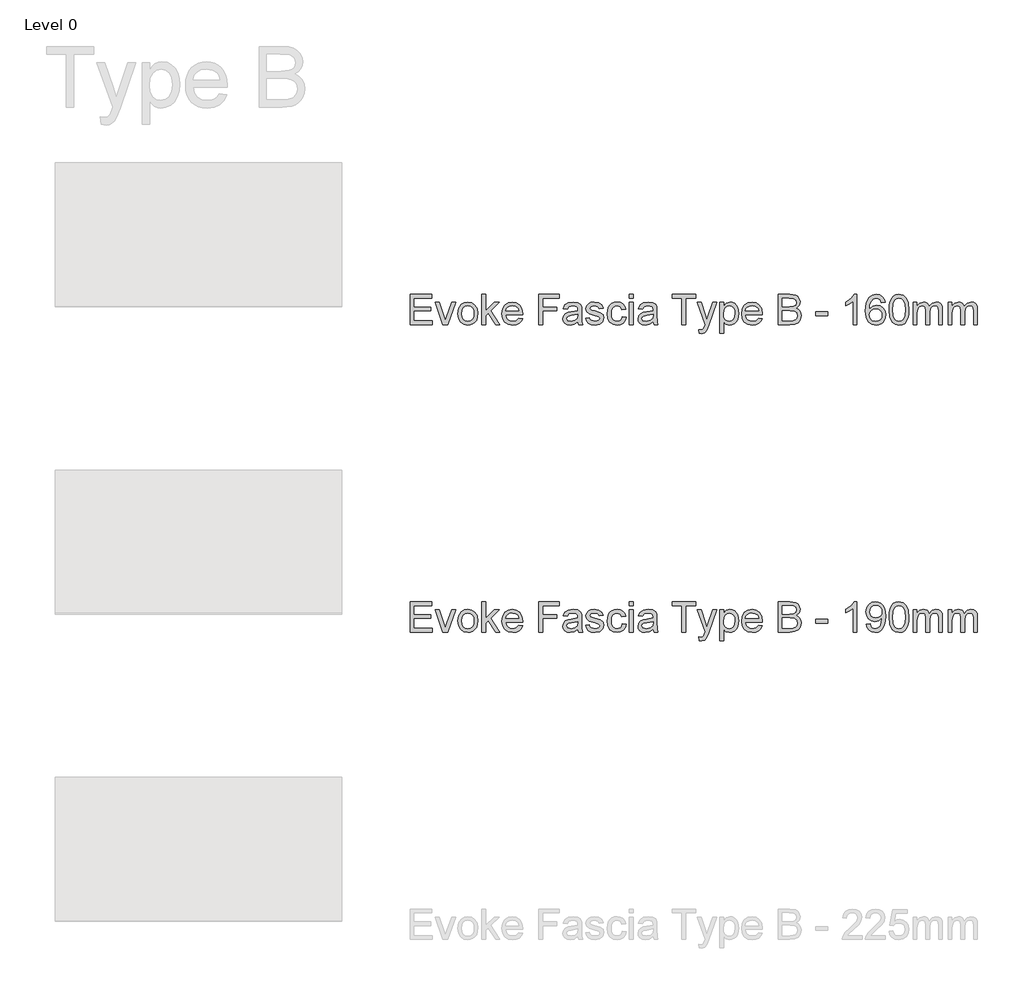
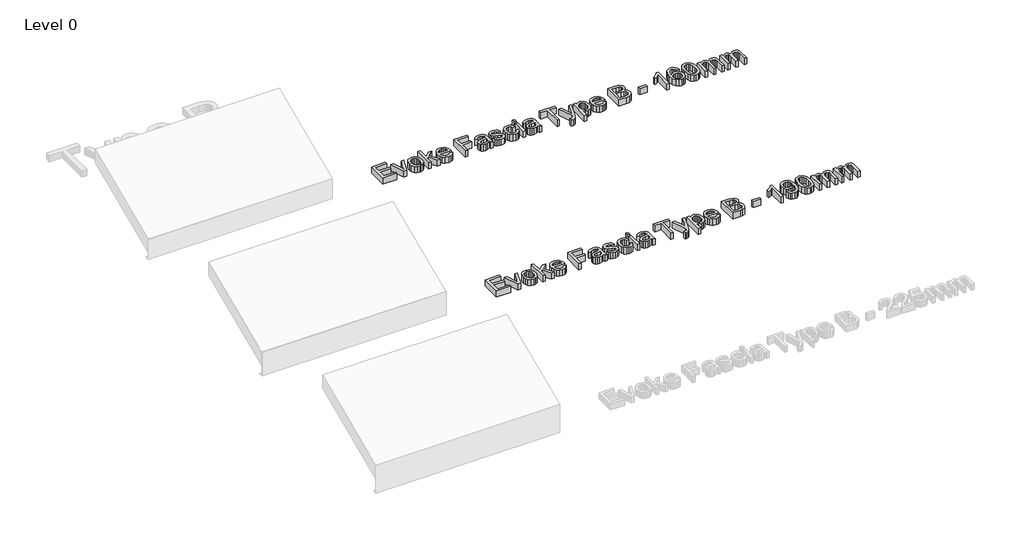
# One storey, part 10 of 13: 2 proxies.
"""IFC4 building model written with IfcOpenShell, lengths in millimetres."""

from ifc_helpers import new_model, si_unit, origin, origin_with_axes, place, context, project, spatial, polyline, outline, extrude, element, save

model = new_model("IFC4")

# Units and contexts
model_context = context("Model", 3, world=origin())
ifc_project = project(units=[si_unit("LENGTHUNIT", "METRE", prefix="MILLI")], contexts=[model_context])

# Site, building, storey
site = spatial("IfcSite", under=ifc_project)
building = spatial("IfcBuilding", under=site)
storey = spatial("IfcBuildingStorey", under=building, Name="Level 0", Elevation=0.0)

# Proxies
placement = place(None, origin())
element("IfcBuildingElementProxy", 1, Name="150mm Arial", ObjectType="150mm Arial", at=placement, inside=storey, context=model_context, shape_type="SweptSolid", body=[
    extrude(outline(polyline([(5568.7201043, 7360.6682311), (5568.7201043, 7508.3605388), (5674.8739504, 7508.3605388), (5674.8739504, 7489.8990003), (5587.1816427, 7489.8990003), (5587.1816427, 7446.0528465), (5670.2585658, 7446.0528465), (5670.2585658, 7427.591308), (5587.1816427, 7427.591308), (5587.1816427, 7379.1297695), (5677.1816427, 7379.1297695), (5677.1816427, 7360.6682311), (5568.7201043, 7360.6682311)])), origin_with_axes(), (0.0, 0.0, 1.0), 50.0),
    extrude(outline(polyline([(5729.176835, 7360.6682311), (5691.0277966, 7469.1297695), (5710.5710658, 7469.1297695), (5733.6840466, 7404.153808), (5740.6431812, 7382.3028465), (5747.458085, 7402.9278465), (5770.7152966, 7469.1297695), (5790.2585658, 7469.1297695), (5752.5782774, 7360.6682311), (5729.176835, 7360.6682311)])), origin_with_axes(), (0.0, 0.0, 1.0), 50.0),
    extrude(outline(polyline([(5801.7970274, 7414.8990003), (5805.7904168, 7441.0498416), (5817.770585, 7459.4302503), (5832.5722677, 7468.435659), (5850.2946235, 7471.4374618), (5869.6891548, 7467.7821133), (5885.1804408, 7456.8160676), (5895.3351884, 7439.4047094), (5898.7201043, 7416.4134234), (5897.22371, 7397.762582), (5892.7345274, 7383.5648657), (5885.3832653, 7372.9323537), (5875.3006331, 7364.9771253), (5863.3249721, 7360.0146854), (5850.2946235, 7358.3605388), (5830.6657173, 7362.0023657), (5815.19246, 7372.9278465), (5805.1458855, 7390.7042888), (5801.7970274, 7414.8990003)]), holes=[polyline([(5820.2585658, 7414.935058), (5822.3949841, 7398.2268248), (5828.8042389, 7386.3232791), (5838.4496716, 7379.1973777), (5850.2946235, 7376.8220772), (5862.0854889, 7379.2108993), (5871.7128927, 7386.3773657), (5878.1221475, 7398.4386638), (5880.2585658, 7415.5119811), (5878.1086259, 7431.7334354), (5871.6588062, 7443.4747215), (5862.0178807, 7450.6006229), (5850.2946235, 7452.9759234), (5838.4496716, 7450.6096373), (5828.8042389, 7443.5107791), (5822.3949841, 7431.6342767), (5820.2585658, 7414.935058)])]), origin_with_axes(), (0.0, 0.0, 1.0), 50.0),
    extrude(outline(polyline([(5919.489335, 7360.6682311), (5919.489335, 7508.3605388), (5937.9508735, 7508.3605388), (5937.9508735, 7428.997558), (5979.3451043, 7469.1297695), (6004.8739504, 7469.1297695), (5962.974912, 7428.4927503), (6007.1816427, 7360.6682311), (5985.6191427, 7360.6682311), (5949.7417389, 7415.6562118), (5937.9508735, 7404.2259234), (5937.9508735, 7360.6682311), (5919.489335, 7360.6682311)])), origin_with_axes(), (0.0, 0.0, 1.0), 50.0),
    extrude(outline(polyline([(6099.2729889, 7392.9759234), (6117.3739504, 7390.6682311), (6110.8520153, 7377.029409), (6100.4448639, 7366.8340965), (6086.3868711, 7360.4789282), (6068.912412, 7358.3605388), (6047.2507533, 7362.0158873), (6030.583085, 7372.981933), (6019.9550802, 7390.5465364), (6016.412412, 7413.997558), (6019.9911379, 7438.2373416), (6030.7273158, 7456.3653465), (6047.1696235, 7467.669433), (6067.8667389, 7471.4374618), (6087.919323, 7467.6784474), (6103.94246, 7456.4014041), (6114.4487701, 7438.309457), (6117.9508735, 7414.1057311), (6117.8427004, 7409.1297695), (6034.8739504, 7409.1297695), (6038.0695634, 7395.310659), (6045.4929408, 7385.1514041), (6056.2065826, 7378.904409), (6069.2729889, 7376.8220772), (6087.3739504, 7380.6802503), (6099.2729889, 7392.9759234)]), holes=[polyline([(6034.8739504, 7427.591308), (6099.489335, 7427.591308), (6096.9923399, 7437.3449138), (6092.0975081, 7444.3220772), (6081.334287, 7450.8124618), (6067.7946235, 7452.9759234), (6055.3502124, 7451.2496614), (6045.0602485, 7446.0708753), (6037.9073038, 7437.9984594), (6034.8739504, 7427.591308)])]), origin_with_axes(), (0.0, 0.0, 1.0), 50.0),
    extrude(outline(polyline([(6196.412412, 7360.6682311), (6196.412412, 7508.3605388), (6295.6431812, 7508.3605388), (6295.6431812, 7489.8990003), (6214.8739504, 7489.8990003), (6214.8739504, 7446.0528465), (6284.1047197, 7446.0528465), (6284.1047197, 7427.591308), (6214.8739504, 7427.591308), (6214.8739504, 7360.6682311), (6196.412412, 7360.6682311)])), origin_with_axes(), (0.0, 0.0, 1.0), 50.0),
    extrude(outline(polyline([(6387.9508735, 7374.5143849), (6370.0482293, 7362.0023657), (6350.270585, 7358.3605388), (6334.8423999, 7360.5510436), (6323.4616908, 7367.122558), (6316.4439624, 7377.1015243), (6314.1047197, 7389.5143849), (6317.6383735, 7404.1177503), (6326.9232293, 7414.7187118), (6339.849912, 7420.7764041), (6355.8234697, 7423.5528465), (6387.8427004, 7429.8990003), (6387.9508735, 7434.0095772), (6386.6798399, 7442.2487599), (6382.8667389, 7447.6393849), (6374.3390947, 7451.6417888), (6362.458085, 7452.9759234), (6343.7802004, 7449.4242407), (6334.8739504, 7436.8220772), (6316.412412, 7439.1297695), (6324.3991908, 7457.1586157), (6340.4809216, 7467.7235195), (6364.8378927, 7471.4374618), (6387.2116908, 7468.1562118), (6399.849912, 7459.9170291), (6405.5109697, 7447.3869811), (6406.412412, 7431.2331349), (6406.412412, 7408.2643849), (6407.349912, 7376.1910676), (6411.0277966, 7360.6682311), (6392.5662581, 7360.6682311), (6387.9508735, 7374.5143849)]), holes=[polyline([(6387.9508735, 7411.4374618), (6358.1672197, 7405.7764041), (6342.2838062, 7402.7836157), (6335.0902966, 7397.9158272), (6332.5662581, 7390.8124618), (6338.0650562, 7380.8244811), (6354.2008735, 7376.8220772), (6372.8787581, 7381.2391445), (6384.9220274, 7391.9302503), (6387.8427004, 7406.2090965), (6387.9508735, 7411.4374618)])]), origin_with_axes(), (0.0, 0.0, 1.0), 50.0),
    extrude(outline(polyline([(6424.8739504, 7392.9759234), (6443.3354889, 7395.2836157), (6446.2471475, 7387.3869811), (6451.881162, 7381.5816926), (6471.4604889, 7376.8220772), (6490.2826043, 7381.185058), (6496.412412, 7391.4254426), (6490.2465466, 7399.7187118), (6471.2441427, 7404.9831349), (6443.443662, 7414.0155868), (6431.3102485, 7424.5624618), (6427.1816427, 7439.4542888), (6430.4989504, 7453.2102984), (6439.5494312, 7463.7211157), (6451.28621, 7469.1838561), (6467.1696235, 7471.4374618), (6489.6335658, 7467.8136638), (6503.912412, 7458.0059715), (6510.2585658, 7441.4374618), (6491.7970274, 7439.1297695), (6484.8559216, 7449.3160676), (6468.6119312, 7452.9759234), (6450.943662, 7449.4783272), (6445.6431812, 7441.3292888), (6447.8427004, 7435.9566926), (6454.7297197, 7431.8821734), (6470.631162, 7427.9518849), (6497.7285177, 7419.2619811), (6510.3126524, 7409.4182311), (6514.8739504, 7393.372558), (6509.5193831, 7375.7042888), (6494.068662, 7362.8857791), (6471.208085, 7358.3605388), (6452.5933014, 7360.5420291), (6439.0085658, 7367.0865003), (6429.9400562, 7377.9218368), (6424.8739504, 7392.9759234)])), origin_with_axes(), (0.0, 0.0, 1.0), 50.0),
    extrude(outline(polyline([(6604.8739504, 7399.8990003), (6623.3354889, 7397.591308), (6618.1882533, 7381.1715364), (6608.5157774, 7368.763183), (6595.2285177, 7360.9611998), (6579.2369312, 7358.3605388), (6559.5990105, 7361.9888441), (6544.2429408, 7372.8737599), (6534.3315826, 7390.5375219), (6531.0277966, 7414.5023657), (6536.6708254, 7445.169433), (6543.7922197, 7456.6673296), (6553.8703447, 7464.8749618), (6565.9271355, 7469.7968368), (6578.9845274, 7471.4374618), (6594.5839865, 7469.1838561), (6607.0554408, 7462.4230388), (6616.0022557, 7451.5155868), (6621.0277966, 7436.8220772), (6602.5662581, 7434.5143849), (6594.0025562, 7448.3425099), (6579.1287581, 7452.9759234), (6567.1981692, 7450.6952743), (6557.7285177, 7443.8533272), (6551.5491307, 7432.0804907), (6549.489335, 7415.0071734), (6551.5040586, 7397.7039883), (6557.5482293, 7385.8905868), (6566.8466067, 7379.0892046), (6578.6239504, 7376.8220772), (6588.1837461, 7378.2373416), (6596.021787, 7382.4831349), (6601.7234096, 7389.6676301), (6604.8739504, 7399.8990003)])), origin_with_axes(), (0.0, 0.0, 1.0), 50.0),
    extrude(outline(polyline([(6639.489335, 7489.8990003), (6639.489335, 7508.3605388), (6657.9508735, 7508.3605388), (6657.9508735, 7489.8990003), (6639.489335, 7489.8990003)])), origin_with_axes(), (0.0, 0.0, 1.0), 50.0),
    extrude(outline(polyline([(6639.489335, 7360.6682311), (6639.489335, 7469.1297695), (6657.9508735, 7469.1297695), (6657.9508735, 7360.6682311), (6639.489335, 7360.6682311)])), origin_with_axes(), (0.0, 0.0, 1.0), 50.0),
    extrude(outline(polyline([(6754.8739504, 7374.5143849), (6736.9713062, 7362.0023657), (6717.193662, 7358.3605388), (6701.7654769, 7360.5510436), (6690.3847677, 7367.122558), (6683.3670394, 7377.1015243), (6681.0277966, 7389.5143849), (6684.5614504, 7404.1177503), (6693.8463062, 7414.7187118), (6706.7729889, 7420.7764041), (6722.7465466, 7423.5528465), (6754.7657774, 7429.8990003), (6754.8739504, 7434.0095772), (6753.6029168, 7442.2487599), (6749.7898158, 7447.6393849), (6741.2621716, 7451.6417888), (6729.381162, 7452.9759234), (6710.7032774, 7449.4242407), (6701.7970274, 7436.8220772), (6683.3354889, 7439.1297695), (6691.3222677, 7457.1586157), (6707.4039985, 7467.7235195), (6731.7609697, 7471.4374618), (6754.1347677, 7468.1562118), (6766.7729889, 7459.9170291), (6772.4340466, 7447.3869811), (6773.3354889, 7431.2331349), (6773.3354889, 7408.2643849), (6774.2729889, 7376.1910676), (6777.9508735, 7360.6682311), (6759.489335, 7360.6682311), (6754.8739504, 7374.5143849)]), holes=[polyline([(6754.8739504, 7411.4374618), (6725.0902966, 7405.7764041), (6709.2068831, 7402.7836157), (6702.0133735, 7397.9158272), (6699.489335, 7390.8124618), (6704.9881331, 7380.8244811), (6721.1239504, 7376.8220772), (6739.801835, 7381.2391445), (6751.8451043, 7391.9302503), (6754.7657774, 7406.2090965), (6754.8739504, 7411.4374618)])]), origin_with_axes(), (0.0, 0.0, 1.0), 50.0),
    extrude(outline(polyline([(6895.6431812, 7360.6682311), (6895.6431812, 7489.8990003), (6847.1816427, 7489.8990003), (6847.1816427, 7508.3605388), (6962.5662581, 7508.3605388), (6962.5662581, 7489.8990003), (6914.1047197, 7489.8990003), (6914.1047197, 7360.6682311), (6895.6431812, 7360.6682311)])), origin_with_axes(), (0.0, 0.0, 1.0), 50.0),
    extrude(outline(polyline([(6981.0277966, 7319.1297695), (6978.7201043, 7336.9062118), (6988.0951043, 7335.2836157), (6996.8571235, 7337.3208753), (7002.2297197, 7342.9999618), (7007.2777966, 7356.5937118), (7008.7201043, 7361.0648657), (6969.489335, 7469.1297695), (6988.9604889, 7469.1297695), (7009.7657774, 7408.9134234), (7017.0133735, 7384.8268849), (7024.2609697, 7406.1009234), (7045.6431812, 7469.1297695), (7064.9701043, 7469.1297695), (7027.2177004, 7358.0720772), (7017.4100081, 7333.9855388), (7006.7008735, 7320.9687118), (6992.3138543, 7316.8220772), (6981.0277966, 7319.1297695)])), origin_with_axes(), (0.0, 0.0, 1.0), 50.0),
    extrude(outline(polyline([(7080.2585658, 7319.1297695), (7080.2585658, 7469.1297695), (7098.7201043, 7469.1297695), (7098.7201043, 7451.028808), (7111.4845274, 7466.3352984), (7128.7201043, 7471.4374618), (7141.2050802, 7469.6526061), (7152.1215466, 7464.2980388), (7161.0097677, 7455.6982791), (7167.4100081, 7444.1778465), (7172.5662581, 7415.7283272), (7171.1104288, 7399.9395652), (7166.7429408, 7385.8184715), (7159.6035177, 7374.0816926), (7149.8318831, 7365.4458753), (7138.451174, 7360.1318729), (7126.4845274, 7358.3605388), (7110.4208254, 7363.1021253), (7098.7201043, 7375.091308), (7098.7201043, 7319.1297695), (7080.2585658, 7319.1297695)]), holes=[polyline([(7098.7201043, 7414.0336157), (7100.716799, 7397.4831349), (7106.7068831, 7385.9086157), (7115.5455249, 7379.0937118), (7126.0878927, 7376.8220772), (7136.8015346, 7379.1748416), (7145.865537, 7386.2331349), (7152.044924, 7398.231332), (7154.1047197, 7415.403808), (7152.0945033, 7431.8641445), (7146.0638543, 7443.6009234), (7137.2387341, 7450.6321734), (7126.8451043, 7452.9759234), (7116.4109096, 7450.4834354), (7107.2477485, 7443.0059715), (7100.8520153, 7430.7779066), (7098.7201043, 7414.0336157)])]), origin_with_axes(), (0.0, 0.0, 1.0), 50.0),
    extrude(outline(polyline([(7269.2729889, 7392.9759234), (7287.3739504, 7390.6682311), (7280.8520153, 7377.029409), (7270.4448639, 7366.8340965), (7256.3868711, 7360.4789282), (7238.912412, 7358.3605388), (7217.2507533, 7362.0158873), (7200.583085, 7372.981933), (7189.9550802, 7390.5465364), (7186.412412, 7413.997558), (7189.9911379, 7438.2373416), (7200.7273158, 7456.3653465), (7217.1696235, 7467.669433), (7237.8667389, 7471.4374618), (7257.919323, 7467.6784474), (7273.94246, 7456.4014041), (7284.4487701, 7438.309457), (7287.9508735, 7414.1057311), (7287.8427004, 7409.1297695), (7204.8739504, 7409.1297695), (7208.0695634, 7395.310659), (7215.4929408, 7385.1514041), (7226.2065826, 7378.904409), (7239.2729889, 7376.8220772), (7257.3739504, 7380.6802503), (7269.2729889, 7392.9759234)]), holes=[polyline([(7204.8739504, 7427.591308), (7269.489335, 7427.591308), (7266.9923399, 7437.3449138), (7262.0975081, 7444.3220772), (7251.334287, 7450.8124618), (7237.7946235, 7452.9759234), (7225.3502124, 7451.2496614), (7215.0602485, 7446.0708753), (7207.9073038, 7437.9984594), (7204.8739504, 7427.591308)])]), origin_with_axes(), (0.0, 0.0, 1.0), 50.0),
    extrude(outline(polyline([(7366.412412, 7360.6682311), (7366.412412, 7508.3605388), (7422.770585, 7508.3605388), (7450.3727485, 7504.0155868), (7459.6485899, 7498.5032671), (7466.6708254, 7490.6562118), (7472.5662581, 7471.7619811), (7467.6083254, 7454.5083753), (7452.6263543, 7441.4374618), (7463.0875923, 7435.9747215), (7470.81746, 7427.6634234), (7475.5905971, 7417.0534474), (7477.1816427, 7404.6946734), (7472.8366908, 7384.8449138), (7462.0734697, 7370.7102984), (7446.0097677, 7363.2102984), (7422.3378927, 7360.6682311), (7366.412412, 7360.6682311)]), holes=[polyline([(7384.8739504, 7448.3605388), (7418.5878927, 7448.3605388), (7438.2753927, 7449.9470772), (7450.1203447, 7456.7800099), (7454.1047197, 7468.8052503), (7450.3907774, 7480.8485195), (7439.7537581, 7487.9699138), (7416.0277966, 7489.8990003), (7384.8739504, 7489.8990003), (7384.8739504, 7448.3605388)]), polyline([(7384.8739504, 7379.1297695), (7422.7345274, 7379.1297695), (7436.4364504, 7379.8509234), (7448.0289985, 7383.8713561), (7455.709287, 7392.0744811), (7458.7201043, 7404.5143849), (7455.1864504, 7418.8653465), (7443.7381331, 7427.4290484), (7420.9316427, 7429.8990003), (7384.8739504, 7429.8990003), (7384.8739504, 7379.1297695)])]), origin_with_axes(), (0.0, 0.0, 1.0), 50.0),
    extrude(outline(polyline([(7548.7201043, 7404.5143849), (7548.7201043, 7422.9759234), (7606.412412, 7422.9759234), (7606.412412, 7404.5143849), (7548.7201043, 7404.5143849)])), origin_with_axes(), (0.0, 0.0, 1.0), 50.0),
    extrude(outline(polyline([(7749.489335, 7360.6682311), (7731.0277966, 7360.6682311), (7731.0277966, 7475.7643849), (7713.5398158, 7463.3064522), (7694.1047197, 7453.9855388), (7694.1047197, 7471.4374618), (7721.1660177, 7488.7090965), (7737.5902966, 7508.3605388), (7749.489335, 7508.3605388), (7749.489335, 7360.6682311)])), origin_with_axes(), (0.0, 0.0, 1.0), 50.0),
    extrude(outline(polyline([(7887.9508735, 7469.1297695), (7869.489335, 7466.8220772), (7862.4941427, 7482.2187118), (7854.1197437, 7487.9789282), (7843.9965466, 7489.8990003), (7827.3378927, 7485.4278465), (7814.7357293, 7468.6429907), (7810.9091067, 7454.8914883), (7809.489335, 7435.7403465), (7825.7693831, 7450.4699138), (7845.943662, 7455.2836157), (7862.9989504, 7451.9933513), (7877.3138543, 7442.122558), (7887.0223879, 7427.0414282), (7890.2585658, 7408.1201541), (7888.7351283, 7394.9005027), (7884.1648158, 7382.6453945), (7876.9262341, 7372.2517647), (7867.3979889, 7364.6165484), (7856.0127725, 7359.9245412), (7843.2032774, 7358.3605388), (7822.2582653, 7362.5071734), (7805.5770754, 7374.9470772), (7794.6651163, 7396.9062118), (7791.0277966, 7429.6105388), (7795.0662581, 7466.3803705), (7807.1816427, 7491.5215965), (7823.7231091, 7504.1508032), (7845.1503927, 7508.3605388), (7861.349311, 7505.7553705), (7874.3210658, 7497.9398657), (7883.4076043, 7485.5270051), (7887.9508735, 7469.1297695)]), holes=[polyline([(7809.489335, 7408.4086157), (7813.7621716, 7392.4170291), (7825.1203447, 7380.8064522), (7841.7609697, 7376.8220772), (7853.9439624, 7378.8863801), (7863.521787, 7385.0792888), (7869.7282173, 7394.8148657), (7871.7970274, 7407.5071734), (7869.7552605, 7419.6901662), (7863.62996, 7428.9795291), (7853.8898759, 7434.8614402), (7841.0037581, 7436.8220772), (7828.8387942, 7434.8614402), (7818.6660177, 7428.9795291), (7811.7835057, 7419.9155267), (7809.489335, 7408.4086157)])]), origin_with_axes(), (0.0, 0.0, 1.0), 50.0),
    extrude(outline(polyline([(7906.412412, 7433.3244811), (7907.7690826, 7456.9648056), (7911.8390947, 7475.8184715), (7918.5818831, 7490.1739402), (7927.9568831, 7500.3196734), (7940.0317028, 7506.3503224), (7954.8739504, 7508.3605388), (7976.4364504, 7503.6009234), (7991.3282774, 7489.8809715), (7999.9821235, 7468.0300099), (8003.3354889, 7433.3244811), (8001.9923399, 7409.8193729), (7997.9628927, 7391.0107791), (7991.2606692, 7376.6417888), (7981.8991908, 7366.4554907), (7969.7973278, 7360.3842767), (7954.8739504, 7358.3605388), (7935.6912581, 7361.8761638), (7921.1239504, 7372.4230388), (7910.0902966, 7397.4020051), (7906.412412, 7433.3244811)]), holes=[polyline([(7924.8739504, 7433.3605388), (7927.037412, 7404.3205748), (7933.5277966, 7387.513183), (7943.1912581, 7379.4948537), (7954.8739504, 7376.8220772), (7966.5566427, 7379.5038681), (7976.2201043, 7387.5492407), (7982.7104889, 7404.3656469), (7984.8739504, 7433.3605388), (7982.7826043, 7461.746957), (7976.5085658, 7478.685058), (7966.8631331, 7487.0955147), (7954.6576043, 7489.8990003), (7943.1011139, 7487.4290484), (7933.8162581, 7480.0191926), (7927.1095274, 7462.0264041), (7924.8739504, 7433.3605388)])]), origin_with_axes(), (0.0, 0.0, 1.0), 50.0),
    extrude(outline(polyline([(8024.1047197, 7360.6682311), (8024.1047197, 7469.1297695), (8042.5662581, 7469.1297695), (8042.5662581, 7451.2812118), (8055.2585658, 7465.9026061), (8073.3234697, 7471.4374618), (8083.5908975, 7470.0267046), (8091.8210658, 7465.794433), (8101.989335, 7449.9831349), (8116.3943831, 7466.0738801), (8134.5854889, 7471.4374618), (8148.4631932, 7469.2063921), (8158.7261139, 7462.513183), (8165.0677605, 7451.177546), (8167.1816427, 7435.0191926), (8167.1816427, 7360.6682311), (8148.7201043, 7360.6682311), (8148.7201043, 7427.0865003), (8147.0073639, 7442.5011638), (8140.8054408, 7450.091308), (8130.2585658, 7452.9759234), (8120.2570634, 7451.1279666), (8112.1035177, 7445.5840965), (8106.6813423, 7435.965707), (8104.8739504, 7421.8941926), (8104.8739504, 7360.6682311), (8086.412412, 7360.6682311), (8086.412412, 7429.1417888), (8082.1395754, 7447.0264041), (8076.5010538, 7451.4885436), (8068.131162, 7452.9759234), (8054.4652966, 7449.0095772), (8045.3787581, 7437.3990003), (8042.5662581, 7415.3677503), (8042.5662581, 7360.6682311), (8024.1047197, 7360.6682311)])), origin_with_axes(), (0.0, 0.0, 1.0), 50.0),
    extrude(outline(polyline([(8194.8739504, 7360.6682311), (8194.8739504, 7469.1297695), (8213.3354889, 7469.1297695), (8213.3354889, 7451.2812118), (8226.0277966, 7465.9026061), (8244.0927004, 7471.4374618), (8254.3601283, 7470.0267046), (8262.5902966, 7465.794433), (8272.7585658, 7449.9831349), (8287.1636139, 7466.0738801), (8305.3547197, 7471.4374618), (8319.232424, 7469.2063921), (8329.4953447, 7462.513183), (8335.8369913, 7451.177546), (8337.9508735, 7435.0191926), (8337.9508735, 7360.6682311), (8319.489335, 7360.6682311), (8319.489335, 7427.0865003), (8317.7765947, 7442.5011638), (8311.5746716, 7450.091308), (8301.0277966, 7452.9759234), (8291.0262942, 7451.1279666), (8282.8727485, 7445.5840965), (8277.450573, 7435.965707), (8275.6431812, 7421.8941926), (8275.6431812, 7360.6682311), (8257.1816427, 7360.6682311), (8257.1816427, 7429.1417888), (8252.9088062, 7447.0264041), (8247.2702846, 7451.4885436), (8238.9003927, 7452.9759234), (8225.2345274, 7449.0095772), (8216.1479889, 7437.3990003), (8213.3354889, 7415.3677503), (8213.3354889, 7360.6682311), (8194.8739504, 7360.6682311)])), origin_with_axes(), (0.0, 0.0, 1.0), 50.0),
])
element("IfcBuildingElementProxy", 2, Name="150mm Arial", ObjectType="150mm Arial", at=placement, inside=storey, context=model_context, shape_type="SweptSolid", body=[
    extrude(outline(polyline([(5568.7201043, 5860.6682311), (5568.7201043, 6008.3605388), (5674.8739504, 6008.3605388), (5674.8739504, 5989.8990003), (5587.1816427, 5989.8990003), (5587.1816427, 5946.0528465), (5670.2585658, 5946.0528465), (5670.2585658, 5927.591308), (5587.1816427, 5927.591308), (5587.1816427, 5879.1297695), (5677.1816427, 5879.1297695), (5677.1816427, 5860.6682311), (5568.7201043, 5860.6682311)])), origin_with_axes(), (0.0, 0.0, 1.0), 50.0),
    extrude(outline(polyline([(5729.176835, 5860.6682311), (5691.0277966, 5969.1297695), (5710.5710658, 5969.1297695), (5733.6840466, 5904.153808), (5740.6431812, 5882.3028465), (5747.458085, 5902.9278465), (5770.7152966, 5969.1297695), (5790.2585658, 5969.1297695), (5752.5782774, 5860.6682311), (5729.176835, 5860.6682311)])), origin_with_axes(), (0.0, 0.0, 1.0), 50.0),
    extrude(outline(polyline([(5801.7970274, 5914.8990003), (5805.7904168, 5941.0498416), (5817.770585, 5959.4302503), (5832.5722677, 5968.435659), (5850.2946235, 5971.4374618), (5869.6891548, 5967.7821133), (5885.1804408, 5956.8160676), (5895.3351884, 5939.4047094), (5898.7201043, 5916.4134234), (5897.22371, 5897.762582), (5892.7345274, 5883.5648657), (5885.3832653, 5872.9323537), (5875.3006331, 5864.9771253), (5863.3249721, 5860.0146854), (5850.2946235, 5858.3605388), (5830.6657173, 5862.0023657), (5815.19246, 5872.9278465), (5805.1458855, 5890.7042888), (5801.7970274, 5914.8990003)]), holes=[polyline([(5820.2585658, 5914.935058), (5822.3949841, 5898.2268248), (5828.8042389, 5886.3232791), (5838.4496716, 5879.1973777), (5850.2946235, 5876.8220772), (5862.0854889, 5879.2108993), (5871.7128927, 5886.3773657), (5878.1221475, 5898.4386638), (5880.2585658, 5915.5119811), (5878.1086259, 5931.7334354), (5871.6588062, 5943.4747215), (5862.0178807, 5950.6006229), (5850.2946235, 5952.9759234), (5838.4496716, 5950.6096373), (5828.8042389, 5943.5107791), (5822.3949841, 5931.6342767), (5820.2585658, 5914.935058)])]), origin_with_axes(), (0.0, 0.0, 1.0), 50.0),
    extrude(outline(polyline([(5919.489335, 5860.6682311), (5919.489335, 6008.3605388), (5937.9508735, 6008.3605388), (5937.9508735, 5928.997558), (5979.3451043, 5969.1297695), (6004.8739504, 5969.1297695), (5962.974912, 5928.4927503), (6007.1816427, 5860.6682311), (5985.6191427, 5860.6682311), (5949.7417389, 5915.6562118), (5937.9508735, 5904.2259234), (5937.9508735, 5860.6682311), (5919.489335, 5860.6682311)])), origin_with_axes(), (0.0, 0.0, 1.0), 50.0),
    extrude(outline(polyline([(6099.2729889, 5892.9759234), (6117.3739504, 5890.6682311), (6110.8520153, 5877.029409), (6100.4448639, 5866.8340965), (6086.3868711, 5860.4789282), (6068.912412, 5858.3605388), (6047.2507533, 5862.0158873), (6030.583085, 5872.981933), (6019.9550802, 5890.5465364), (6016.412412, 5913.997558), (6019.9911379, 5938.2373416), (6030.7273158, 5956.3653465), (6047.1696235, 5967.669433), (6067.8667389, 5971.4374618), (6087.919323, 5967.6784474), (6103.94246, 5956.4014041), (6114.4487701, 5938.309457), (6117.9508735, 5914.1057311), (6117.8427004, 5909.1297695), (6034.8739504, 5909.1297695), (6038.0695634, 5895.310659), (6045.4929408, 5885.1514041), (6056.2065826, 5878.904409), (6069.2729889, 5876.8220772), (6087.3739504, 5880.6802503), (6099.2729889, 5892.9759234)]), holes=[polyline([(6034.8739504, 5927.591308), (6099.489335, 5927.591308), (6096.9923399, 5937.3449138), (6092.0975081, 5944.3220772), (6081.334287, 5950.8124618), (6067.7946235, 5952.9759234), (6055.3502124, 5951.2496614), (6045.0602485, 5946.0708753), (6037.9073038, 5937.9984594), (6034.8739504, 5927.591308)])]), origin_with_axes(), (0.0, 0.0, 1.0), 50.0),
    extrude(outline(polyline([(6196.412412, 5860.6682311), (6196.412412, 6008.3605388), (6295.6431812, 6008.3605388), (6295.6431812, 5989.8990003), (6214.8739504, 5989.8990003), (6214.8739504, 5946.0528465), (6284.1047197, 5946.0528465), (6284.1047197, 5927.591308), (6214.8739504, 5927.591308), (6214.8739504, 5860.6682311), (6196.412412, 5860.6682311)])), origin_with_axes(), (0.0, 0.0, 1.0), 50.0),
    extrude(outline(polyline([(6387.9508735, 5874.5143849), (6370.0482293, 5862.0023657), (6350.270585, 5858.3605388), (6334.8423999, 5860.5510436), (6323.4616908, 5867.122558), (6316.4439624, 5877.1015243), (6314.1047197, 5889.5143849), (6317.6383735, 5904.1177503), (6326.9232293, 5914.7187118), (6339.849912, 5920.7764041), (6355.8234697, 5923.5528465), (6387.8427004, 5929.8990003), (6387.9508735, 5934.0095772), (6386.6798399, 5942.2487599), (6382.8667389, 5947.6393849), (6374.3390947, 5951.6417888), (6362.458085, 5952.9759234), (6343.7802004, 5949.4242407), (6334.8739504, 5936.8220772), (6316.412412, 5939.1297695), (6324.3991908, 5957.1586157), (6340.4809216, 5967.7235195), (6364.8378927, 5971.4374618), (6387.2116908, 5968.1562118), (6399.849912, 5959.9170291), (6405.5109697, 5947.3869811), (6406.412412, 5931.2331349), (6406.412412, 5908.2643849), (6407.349912, 5876.1910676), (6411.0277966, 5860.6682311), (6392.5662581, 5860.6682311), (6387.9508735, 5874.5143849)]), holes=[polyline([(6387.9508735, 5911.4374618), (6358.1672197, 5905.7764041), (6342.2838062, 5902.7836157), (6335.0902966, 5897.9158272), (6332.5662581, 5890.8124618), (6338.0650562, 5880.8244811), (6354.2008735, 5876.8220772), (6372.8787581, 5881.2391445), (6384.9220274, 5891.9302503), (6387.8427004, 5906.2090965), (6387.9508735, 5911.4374618)])]), origin_with_axes(), (0.0, 0.0, 1.0), 50.0),
    extrude(outline(polyline([(6424.8739504, 5892.9759234), (6443.3354889, 5895.2836157), (6446.2471475, 5887.3869811), (6451.881162, 5881.5816926), (6471.4604889, 5876.8220772), (6490.2826043, 5881.185058), (6496.412412, 5891.4254426), (6490.2465466, 5899.7187118), (6471.2441427, 5904.9831349), (6443.443662, 5914.0155868), (6431.3102485, 5924.5624618), (6427.1816427, 5939.4542888), (6430.4989504, 5953.2102984), (6439.5494312, 5963.7211157), (6451.28621, 5969.1838561), (6467.1696235, 5971.4374618), (6489.6335658, 5967.8136638), (6503.912412, 5958.0059715), (6510.2585658, 5941.4374618), (6491.7970274, 5939.1297695), (6484.8559216, 5949.3160676), (6468.6119312, 5952.9759234), (6450.943662, 5949.4783272), (6445.6431812, 5941.3292888), (6447.8427004, 5935.9566926), (6454.7297197, 5931.8821734), (6470.631162, 5927.9518849), (6497.7285177, 5919.2619811), (6510.3126524, 5909.4182311), (6514.8739504, 5893.372558), (6509.5193831, 5875.7042888), (6494.068662, 5862.8857791), (6471.208085, 5858.3605388), (6452.5933014, 5860.5420291), (6439.0085658, 5867.0865003), (6429.9400562, 5877.9218368), (6424.8739504, 5892.9759234)])), origin_with_axes(), (0.0, 0.0, 1.0), 50.0),
    extrude(outline(polyline([(6604.8739504, 5899.8990003), (6623.3354889, 5897.591308), (6618.1882533, 5881.1715364), (6608.5157774, 5868.763183), (6595.2285177, 5860.9611998), (6579.2369312, 5858.3605388), (6559.5990105, 5861.9888441), (6544.2429408, 5872.8737599), (6534.3315826, 5890.5375219), (6531.0277966, 5914.5023657), (6536.6708254, 5945.169433), (6543.7922197, 5956.6673296), (6553.8703447, 5964.8749618), (6565.9271355, 5969.7968368), (6578.9845274, 5971.4374618), (6594.5839865, 5969.1838561), (6607.0554408, 5962.4230388), (6616.0022557, 5951.5155868), (6621.0277966, 5936.8220772), (6602.5662581, 5934.5143849), (6594.0025562, 5948.3425099), (6579.1287581, 5952.9759234), (6567.1981692, 5950.6952743), (6557.7285177, 5943.8533272), (6551.5491307, 5932.0804907), (6549.489335, 5915.0071734), (6551.5040586, 5897.7039883), (6557.5482293, 5885.8905868), (6566.8466067, 5879.0892046), (6578.6239504, 5876.8220772), (6588.1837461, 5878.2373416), (6596.021787, 5882.4831349), (6601.7234096, 5889.6676301), (6604.8739504, 5899.8990003)])), origin_with_axes(), (0.0, 0.0, 1.0), 50.0),
    extrude(outline(polyline([(6639.489335, 5989.8990003), (6639.489335, 6008.3605388), (6657.9508735, 6008.3605388), (6657.9508735, 5989.8990003), (6639.489335, 5989.8990003)])), origin_with_axes(), (0.0, 0.0, 1.0), 50.0),
    extrude(outline(polyline([(6639.489335, 5860.6682311), (6639.489335, 5969.1297695), (6657.9508735, 5969.1297695), (6657.9508735, 5860.6682311), (6639.489335, 5860.6682311)])), origin_with_axes(), (0.0, 0.0, 1.0), 50.0),
    extrude(outline(polyline([(6754.8739504, 5874.5143849), (6736.9713062, 5862.0023657), (6717.193662, 5858.3605388), (6701.7654769, 5860.5510436), (6690.3847677, 5867.122558), (6683.3670394, 5877.1015243), (6681.0277966, 5889.5143849), (6684.5614504, 5904.1177503), (6693.8463062, 5914.7187118), (6706.7729889, 5920.7764041), (6722.7465466, 5923.5528465), (6754.7657774, 5929.8990003), (6754.8739504, 5934.0095772), (6753.6029168, 5942.2487599), (6749.7898158, 5947.6393849), (6741.2621716, 5951.6417888), (6729.381162, 5952.9759234), (6710.7032774, 5949.4242407), (6701.7970274, 5936.8220772), (6683.3354889, 5939.1297695), (6691.3222677, 5957.1586157), (6707.4039985, 5967.7235195), (6731.7609697, 5971.4374618), (6754.1347677, 5968.1562118), (6766.7729889, 5959.9170291), (6772.4340466, 5947.3869811), (6773.3354889, 5931.2331349), (6773.3354889, 5908.2643849), (6774.2729889, 5876.1910676), (6777.9508735, 5860.6682311), (6759.489335, 5860.6682311), (6754.8739504, 5874.5143849)]), holes=[polyline([(6754.8739504, 5911.4374618), (6725.0902966, 5905.7764041), (6709.2068831, 5902.7836157), (6702.0133735, 5897.9158272), (6699.489335, 5890.8124618), (6704.9881331, 5880.8244811), (6721.1239504, 5876.8220772), (6739.801835, 5881.2391445), (6751.8451043, 5891.9302503), (6754.7657774, 5906.2090965), (6754.8739504, 5911.4374618)])]), origin_with_axes(), (0.0, 0.0, 1.0), 50.0),
    extrude(outline(polyline([(6895.6431812, 5860.6682311), (6895.6431812, 5989.8990003), (6847.1816427, 5989.8990003), (6847.1816427, 6008.3605388), (6962.5662581, 6008.3605388), (6962.5662581, 5989.8990003), (6914.1047197, 5989.8990003), (6914.1047197, 5860.6682311), (6895.6431812, 5860.6682311)])), origin_with_axes(), (0.0, 0.0, 1.0), 50.0),
    extrude(outline(polyline([(6981.0277966, 5819.1297695), (6978.7201043, 5836.9062118), (6988.0951043, 5835.2836157), (6996.8571235, 5837.3208753), (7002.2297197, 5842.9999618), (7007.2777966, 5856.5937118), (7008.7201043, 5861.0648657), (6969.489335, 5969.1297695), (6988.9604889, 5969.1297695), (7009.7657774, 5908.9134234), (7017.0133735, 5884.8268849), (7024.2609697, 5906.1009234), (7045.6431812, 5969.1297695), (7064.9701043, 5969.1297695), (7027.2177004, 5858.0720772), (7017.4100081, 5833.9855388), (7006.7008735, 5820.9687118), (6992.3138543, 5816.8220772), (6981.0277966, 5819.1297695)])), origin_with_axes(), (0.0, 0.0, 1.0), 50.0),
    extrude(outline(polyline([(7080.2585658, 5819.1297695), (7080.2585658, 5969.1297695), (7098.7201043, 5969.1297695), (7098.7201043, 5951.028808), (7111.4845274, 5966.3352984), (7128.7201043, 5971.4374618), (7141.2050802, 5969.6526061), (7152.1215466, 5964.2980388), (7161.0097677, 5955.6982791), (7167.4100081, 5944.1778465), (7172.5662581, 5915.7283272), (7171.1104288, 5899.9395652), (7166.7429408, 5885.8184715), (7159.6035177, 5874.0816926), (7149.8318831, 5865.4458753), (7138.451174, 5860.1318729), (7126.4845274, 5858.3605388), (7110.4208254, 5863.1021253), (7098.7201043, 5875.091308), (7098.7201043, 5819.1297695), (7080.2585658, 5819.1297695)]), holes=[polyline([(7098.7201043, 5914.0336157), (7100.716799, 5897.4831349), (7106.7068831, 5885.9086157), (7115.5455249, 5879.0937118), (7126.0878927, 5876.8220772), (7136.8015346, 5879.1748416), (7145.865537, 5886.2331349), (7152.044924, 5898.231332), (7154.1047197, 5915.403808), (7152.0945033, 5931.8641445), (7146.0638543, 5943.6009234), (7137.2387341, 5950.6321734), (7126.8451043, 5952.9759234), (7116.4109096, 5950.4834354), (7107.2477485, 5943.0059715), (7100.8520153, 5930.7779066), (7098.7201043, 5914.0336157)])]), origin_with_axes(), (0.0, 0.0, 1.0), 50.0),
    extrude(outline(polyline([(7269.2729889, 5892.9759234), (7287.3739504, 5890.6682311), (7280.8520153, 5877.029409), (7270.4448639, 5866.8340965), (7256.3868711, 5860.4789282), (7238.912412, 5858.3605388), (7217.2507533, 5862.0158873), (7200.583085, 5872.981933), (7189.9550802, 5890.5465364), (7186.412412, 5913.997558), (7189.9911379, 5938.2373416), (7200.7273158, 5956.3653465), (7217.1696235, 5967.669433), (7237.8667389, 5971.4374618), (7257.919323, 5967.6784474), (7273.94246, 5956.4014041), (7284.4487701, 5938.309457), (7287.9508735, 5914.1057311), (7287.8427004, 5909.1297695), (7204.8739504, 5909.1297695), (7208.0695634, 5895.310659), (7215.4929408, 5885.1514041), (7226.2065826, 5878.904409), (7239.2729889, 5876.8220772), (7257.3739504, 5880.6802503), (7269.2729889, 5892.9759234)]), holes=[polyline([(7204.8739504, 5927.591308), (7269.489335, 5927.591308), (7266.9923399, 5937.3449138), (7262.0975081, 5944.3220772), (7251.334287, 5950.8124618), (7237.7946235, 5952.9759234), (7225.3502124, 5951.2496614), (7215.0602485, 5946.0708753), (7207.9073038, 5937.9984594), (7204.8739504, 5927.591308)])]), origin_with_axes(), (0.0, 0.0, 1.0), 50.0),
    extrude(outline(polyline([(7366.412412, 5860.6682311), (7366.412412, 6008.3605388), (7422.770585, 6008.3605388), (7450.3727485, 6004.0155868), (7459.6485899, 5998.5032671), (7466.6708254, 5990.6562118), (7472.5662581, 5971.7619811), (7467.6083254, 5954.5083753), (7452.6263543, 5941.4374618), (7463.0875923, 5935.9747215), (7470.81746, 5927.6634234), (7475.5905971, 5917.0534474), (7477.1816427, 5904.6946734), (7472.8366908, 5884.8449138), (7462.0734697, 5870.7102984), (7446.0097677, 5863.2102984), (7422.3378927, 5860.6682311), (7366.412412, 5860.6682311)]), holes=[polyline([(7384.8739504, 5948.3605388), (7418.5878927, 5948.3605388), (7438.2753927, 5949.9470772), (7450.1203447, 5956.7800099), (7454.1047197, 5968.8052503), (7450.3907774, 5980.8485195), (7439.7537581, 5987.9699138), (7416.0277966, 5989.8990003), (7384.8739504, 5989.8990003), (7384.8739504, 5948.3605388)]), polyline([(7384.8739504, 5879.1297695), (7422.7345274, 5879.1297695), (7436.4364504, 5879.8509234), (7448.0289985, 5883.8713561), (7455.709287, 5892.0744811), (7458.7201043, 5904.5143849), (7455.1864504, 5918.8653465), (7443.7381331, 5927.4290484), (7420.9316427, 5929.8990003), (7384.8739504, 5929.8990003), (7384.8739504, 5879.1297695)])]), origin_with_axes(), (0.0, 0.0, 1.0), 50.0),
    extrude(outline(polyline([(7548.7201043, 5904.5143849), (7548.7201043, 5922.9759234), (7606.412412, 5922.9759234), (7606.412412, 5904.5143849), (7548.7201043, 5904.5143849)])), origin_with_axes(), (0.0, 0.0, 1.0), 50.0),
    extrude(outline(polyline([(7749.489335, 5860.6682311), (7731.0277966, 5860.6682311), (7731.0277966, 5975.7643849), (7713.5398158, 5963.3064522), (7694.1047197, 5953.9855388), (7694.1047197, 5971.4374618), (7721.1660177, 5988.7090965), (7737.5902966, 6008.3605388), (7749.489335, 6008.3605388), (7749.489335, 5860.6682311)])), origin_with_axes(), (0.0, 0.0, 1.0), 50.0),
    extrude(outline(polyline([(7795.6431812, 5897.591308), (7814.1047197, 5899.8990003), (7817.2597677, 5889.4197335), (7822.3979889, 5882.2848176), (7838.1191427, 5876.8220772), (7853.0650562, 5880.3377022), (7863.1972677, 5889.7307311), (7869.2369312, 5905.7764041), (7871.9052004, 5927.1946734), (7871.7970274, 5930.8004426), (7857.0314024, 5916.810058), (7836.7850081, 5911.4374618), (7819.950573, 5914.7187118), (7805.9376524, 5924.5624618), (7796.4860298, 5939.7697936), (7793.3354889, 5959.1417888), (7796.6392749, 5979.153808), (7806.5506331, 5994.8389041), (7821.4379528, 6004.9801301), (7839.6696235, 6008.3605388), (7853.4391548, 6006.4314522), (7865.97371, 6000.6441926), (7876.4574841, 5991.2872215), (7884.0746716, 5978.6490003), (7888.7125923, 5961.1790484), (7890.2585658, 5937.3268849), (7888.7170995, 5912.036921), (7884.0927004, 5892.4891445), (7876.4259336, 5877.8001421), (7865.7573639, 5867.0865003), (7852.5467269, 5860.5420291), (7837.2537581, 5858.3605388), (7821.4695033, 5860.9341566), (7808.8763543, 5868.6550099), (7800.0692629, 5881.03632), (7795.6431812, 5897.591308)]), holes=[polyline([(7871.7970274, 5959.5744811), (7869.8048399, 5972.0865003), (7863.8282774, 5981.7139041), (7854.552436, 5987.8527263), (7842.662412, 5989.8990003), (7830.3306812, 5987.6949739), (7820.4508735, 5981.0828945), (7813.9604889, 5970.9642046), (7811.7970274, 5958.2403465), (7813.8433014, 5946.8325941), (7819.9821235, 5937.7776061), (7829.6185418, 5931.8686517), (7842.1576043, 5929.8990003), (7853.9529769, 5931.8686517), (7863.4496716, 5937.7776061), (7869.7101884, 5947.1661277), (7871.7970274, 5959.5744811)])]), origin_with_axes(), (0.0, 0.0, 1.0), 50.0),
    extrude(outline(polyline([(7906.412412, 5933.3244811), (7907.7690826, 5956.9648056), (7911.8390947, 5975.8184715), (7918.5818831, 5990.1739402), (7927.9568831, 6000.3196734), (7940.0317028, 6006.3503224), (7954.8739504, 6008.3605388), (7976.4364504, 6003.6009234), (7991.3282774, 5989.8809715), (7999.9821235, 5968.0300099), (8003.3354889, 5933.3244811), (8001.9923399, 5909.8193729), (7997.9628927, 5891.0107791), (7991.2606692, 5876.6417888), (7981.8991908, 5866.4554907), (7969.7973278, 5860.3842767), (7954.8739504, 5858.3605388), (7935.6912581, 5861.8761638), (7921.1239504, 5872.4230388), (7910.0902966, 5897.4020051), (7906.412412, 5933.3244811)]), holes=[polyline([(7924.8739504, 5933.3605388), (7927.037412, 5904.3205748), (7933.5277966, 5887.513183), (7943.1912581, 5879.4948537), (7954.8739504, 5876.8220772), (7966.5566427, 5879.5038681), (7976.2201043, 5887.5492407), (7982.7104889, 5904.3656469), (7984.8739504, 5933.3605388), (7982.7826043, 5961.746957), (7976.5085658, 5978.685058), (7966.8631331, 5987.0955147), (7954.6576043, 5989.8990003), (7943.1011139, 5987.4290484), (7933.8162581, 5980.0191926), (7927.1095274, 5962.0264041), (7924.8739504, 5933.3605388)])]), origin_with_axes(), (0.0, 0.0, 1.0), 50.0),
    extrude(outline(polyline([(8024.1047197, 5860.6682311), (8024.1047197, 5969.1297695), (8042.5662581, 5969.1297695), (8042.5662581, 5951.2812118), (8055.2585658, 5965.9026061), (8073.3234697, 5971.4374618), (8083.5908975, 5970.0267046), (8091.8210658, 5965.794433), (8101.989335, 5949.9831349), (8116.3943831, 5966.0738801), (8134.5854889, 5971.4374618), (8148.4631932, 5969.2063921), (8158.7261139, 5962.513183), (8165.0677605, 5951.177546), (8167.1816427, 5935.0191926), (8167.1816427, 5860.6682311), (8148.7201043, 5860.6682311), (8148.7201043, 5927.0865003), (8147.0073639, 5942.5011638), (8140.8054408, 5950.091308), (8130.2585658, 5952.9759234), (8120.2570634, 5951.1279666), (8112.1035177, 5945.5840965), (8106.6813423, 5935.965707), (8104.8739504, 5921.8941926), (8104.8739504, 5860.6682311), (8086.412412, 5860.6682311), (8086.412412, 5929.1417888), (8082.1395754, 5947.0264041), (8076.5010538, 5951.4885436), (8068.131162, 5952.9759234), (8054.4652966, 5949.0095772), (8045.3787581, 5937.3990003), (8042.5662581, 5915.3677503), (8042.5662581, 5860.6682311), (8024.1047197, 5860.6682311)])), origin_with_axes(), (0.0, 0.0, 1.0), 50.0),
    extrude(outline(polyline([(8194.8739504, 5860.6682311), (8194.8739504, 5969.1297695), (8213.3354889, 5969.1297695), (8213.3354889, 5951.2812118), (8226.0277966, 5965.9026061), (8244.0927004, 5971.4374618), (8254.3601283, 5970.0267046), (8262.5902966, 5965.794433), (8272.7585658, 5949.9831349), (8287.1636139, 5966.0738801), (8305.3547197, 5971.4374618), (8319.232424, 5969.2063921), (8329.4953447, 5962.513183), (8335.8369913, 5951.177546), (8337.9508735, 5935.0191926), (8337.9508735, 5860.6682311), (8319.489335, 5860.6682311), (8319.489335, 5927.0865003), (8317.7765947, 5942.5011638), (8311.5746716, 5950.091308), (8301.0277966, 5952.9759234), (8291.0262942, 5951.1279666), (8282.8727485, 5945.5840965), (8277.450573, 5935.965707), (8275.6431812, 5921.8941926), (8275.6431812, 5860.6682311), (8257.1816427, 5860.6682311), (8257.1816427, 5929.1417888), (8252.9088062, 5947.0264041), (8247.2702846, 5951.4885436), (8238.9003927, 5952.9759234), (8225.2345274, 5949.0095772), (8216.1479889, 5937.3990003), (8213.3354889, 5915.3677503), (8213.3354889, 5860.6682311), (8194.8739504, 5860.6682311)])), origin_with_axes(), (0.0, 0.0, 1.0), 50.0),
])

save(model, "model.ifc")
